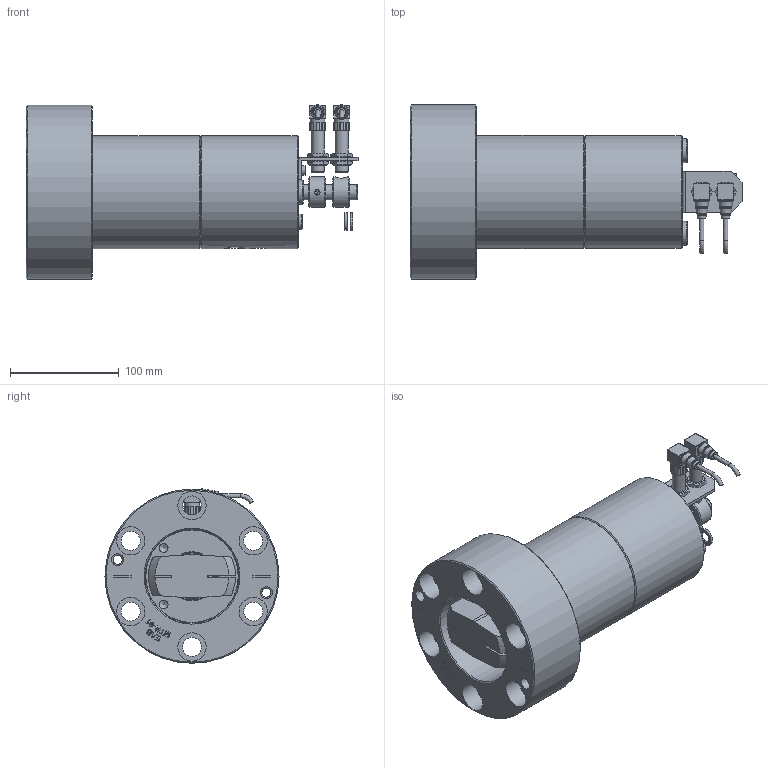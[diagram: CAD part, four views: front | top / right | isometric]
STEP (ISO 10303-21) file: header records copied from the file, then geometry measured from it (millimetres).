
FILE_DESCRIPTION(/* description */ (''),/* implementation_level */ '2;1');
FILE_NAME(/* name */ 'Z:\Standard products\2. QDC Clamping Systems\6. MTR - 3 Pos. Swing Clamp\MTR91-13-01-15.stp',/* time_stamp */ '2015-01-13T15:41:59+01:00',/* author */ ('breep'),/* organization */ (''),/* preprocessor_version */ 'ST-DEVELOPER v15.2',/* originating_system */ 'Autodesk Inventor 2014',/* authorisation */ '');
FILE_SCHEMA (('AUTOMOTIVE_DESIGN { 1 0 10303 214 3 1 1 }'));
Length unit declared in the file: millimetre
Products named in the file (1): Part1
Bounding box: 305 x 159.9 x 160.31 mm (x, y, z)
Volume: 2389581.5 mm3; surface area: 375696 mm2
Topology: 15 solids, 58 shells, 1446 faces, 3359 edges, 2131 vertices
Faces by surface type: plane 620, cylinder 384, cone 217, torus 128, bspline 77, sphere 20
Full cylindrical faces by diameter (mm): 0.5 x8, 1.7 x2, 2 x4, 2.5 x2, 2.6 x4, 3 x2, 3.2 x2, 3.242 x2, 4 x3, 4.134 x2, 4.917 x2, 5 x4, 5.5 x2, 6 x5, 6.5 x1, 6.647 x1, 8 x9, 8.1 x2, 8.376 x10, 8.5 x4, 8.56 x4, 9 x3, 10 x8, 10.35 x2, 10.917 x2, 11 x16, 11.5 x2, 11.9 x2, 12 x6, 12.15 x4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
Entity records: 41504 total; most frequent: CARTESIAN_POINT 11262, DIRECTION 5865, ORIENTED_EDGE 5092, EDGE_CURVE 2543, AXIS2_PLACEMENT_3D 2417, EDGE_LOOP 2239, VERTEX_POINT 1906, STYLED_ITEM 1449
